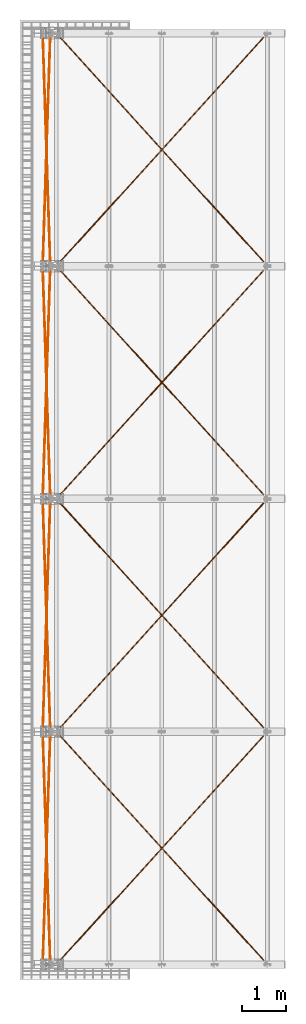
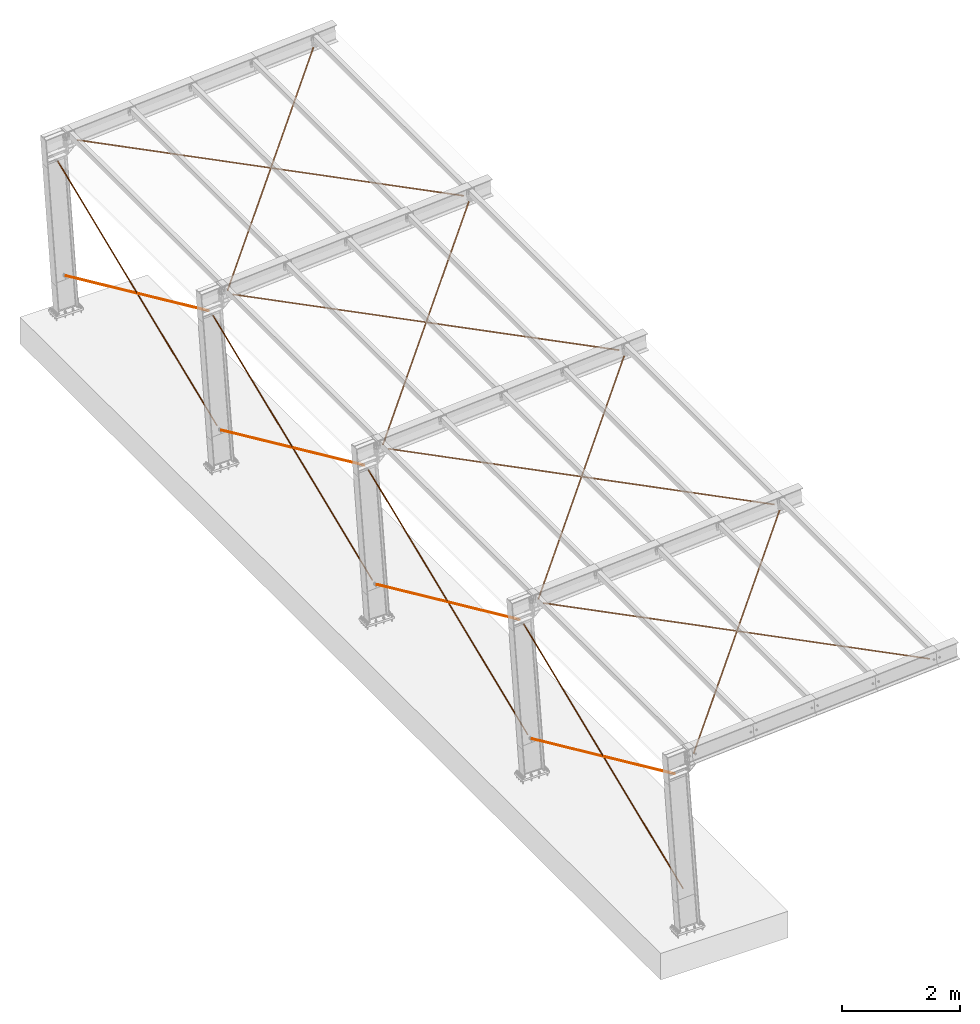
# One storey, part 72 of 72: 16 proxies.
"""IFC4 building model written with IfcOpenShell, lengths in metres."""

from ifc_helpers import new_model, si_unit, frame, frame_2d, origin_with_axes, place, context, project, spatial, circle, i_section, extrude, clip, halfspace, material, material_profile, profile_set, profile_usage, type_object, element, save


model = new_model("IFC4")

# Units and contexts
model_context = context("Model", 3, precision=1e-05, world=origin_with_axes())
ifc_project = project(units=[si_unit("LENGTHUNIT", "METRE"), si_unit("AREAUNIT", "SQUARE_METRE"), si_unit("VOLUMEUNIT", "CUBIC_METRE"), si_unit("MASSUNIT", "GRAM", prefix="KILO"), si_unit("TIMEUNIT", "SECOND"), si_unit("PLANEANGLEUNIT", "RADIAN"), si_unit("SOLIDANGLEUNIT", "STERADIAN"), si_unit("THERMODYNAMICTEMPERATUREUNIT", "DEGREE_CELSIUS")], contexts=[model_context])

# Site, building, storey
placement_1 = place(None, origin_with_axes())
site = spatial("IfcSite", under=ifc_project, at=placement_1, Name="Italia", CompositionType="ELEMENT")
building = spatial("IfcBuilding", under=site, at=placement_1, Name="Pensilina", CompositionType="ELEMENT")
storey = spatial("IfcBuildingStorey", under=building, at=placement_1, Name="Storey 0", CompositionType="ELEMENT", Elevation=0.0)

# Proxies
ifc_material = material(Name="Acciaio", Category="ACCIAIO")
ifc_material_profile = material_profile(ifc_material, i_section(OverallWidth=0.18, OverallDepth=0.4, WebThickness=0.0086, FlangeThickness=0.0135, FilletRadius=0.021, at=frame_2d((0.0, 0.0, 0.0), x_axis=(1.0, 0.0))), Name="1 IPE400")
ifc_profile_set = profile_set([ifc_material_profile])
ifc_profile_usage_1 = profile_usage(ifc_profile_set, cardinal=5)
member_type_1 = type_object("IfcMemberType", Name="11 C16", PredefinedType="MEMBER", material=ifc_profile_usage_1)
placement_2 = place(placement_1, origin_with_axes())
proxy_1_placement = place(placement_2, frame((0.97839766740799, 7.956416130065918, -0.468639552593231), z_axis=(0.0, 0.0, 1.0), x_axis=(1.0, 0.0, 0.0)))
element("IfcBuildingElementProxy", 1, at=proxy_1_placement, inside=storey, type_object=member_type_1, Name="914", context=model_context, shape_type="Clipping", body=[
    clip(clip(extrude(circle(Radius=0.008, at=frame_2d((0.0, 0.0, 0.0), x_axis=(1.0, 0.0))), frame((0.0, 0.0, 0.0), z_axis=(-0.029526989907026, -0.902447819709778, 0.429786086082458), x_axis=(0.99946516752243, -0.032701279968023, 0.0)), (0.0, 0.0, 1.0), 11.7015), halfspace(frame((-0.0901551, -2.75546, 1.31227), z_axis=(0.028586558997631, 0.902767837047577, -0.429177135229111), x_axis=(-0.999499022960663, 0.031649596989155, 0.0)), False)), halfspace(frame((-0.257738, -7.87738, 3.75156), z_axis=(0.029574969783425, 0.90244847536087, -0.429781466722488), x_axis=(-0.999463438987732, 0.032754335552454, 0.0)), True)),
])
ifc_profile_usage_2 = profile_usage(ifc_profile_set, cardinal=5)
member_type_2 = type_object("IfcMemberType", Name="11 C16", PredefinedType="MEMBER", material=ifc_profile_usage_2)
proxy_2_placement = place(placement_2, frame((0.632887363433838, 7.883584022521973, 4.560505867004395), z_axis=(0.0, 0.0, 1.0), x_axis=(1.0, 0.0, 0.0)))
element("IfcBuildingElementProxy", 2, at=proxy_2_placement, inside=storey, type_object=member_type_2, Name="911", context=model_context, shape_type="Clipping", body=[
    clip(clip(extrude(circle(Radius=0.008, at=frame_2d((0.0, 0.0, 0.0), x_axis=(1.0, 0.0))), frame((0.0, 0.0, 0.0), z_axis=(0.029526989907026, -0.902447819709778, -0.429786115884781), x_axis=(0.99946516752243, 0.032701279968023, 0.0)), (0.0, 0.0, 1.0), 11.7015), halfspace(frame((0.0877718, -2.68262, -1.27758), z_axis=(-0.029885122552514, 0.902365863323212, 0.429933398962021), x_axis=(-0.99945205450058, -0.033100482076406, 0.0)), False)), halfspace(frame((0.255356, -7.80456, -3.71688), z_axis=(-0.030468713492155, 0.902114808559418, 0.430418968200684), x_axis=(-0.999430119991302, -0.033755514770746, 0.0)), True)),
])
ifc_profile_usage_3 = profile_usage(ifc_profile_set, cardinal=5)
member_type_3 = type_object("IfcMemberType", Name="11 C16", PredefinedType="MEMBER", material=ifc_profile_usage_3)
proxy_3_placement = place(placement_2, frame((0.97839766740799, 13.236416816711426, -0.468639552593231), z_axis=(0.0, 0.0, 1.0), x_axis=(1.0, 0.0, 0.0)))
element("IfcBuildingElementProxy", 3, at=proxy_3_placement, inside=storey, type_object=member_type_3, Name="916", context=model_context, shape_type="Clipping", body=[
    clip(clip(extrude(circle(Radius=0.008, at=frame_2d((0.0, 0.0, 0.0), x_axis=(1.0, 0.0))), frame((0.0, 0.0, 0.0), z_axis=(-0.029526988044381, -0.902447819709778, 0.429786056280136), x_axis=(0.99946516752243, -0.032701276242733, 0.0)), (0.0, 0.0, 1.0), 11.7015), halfspace(frame((-0.0901546, -2.75544, 1.31226), z_axis=(0.030463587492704, 0.902331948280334, -0.429963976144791), x_axis=(-0.999430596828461, 0.033741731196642, 0.0)), False)), halfspace(frame((-0.257739, -7.87739, 3.75157), z_axis=(0.028786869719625, 0.902723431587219, -0.429257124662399), x_axis=(-0.999491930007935, 0.03187271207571, 0.0)), True)),
])
ifc_profile_usage_4 = profile_usage(ifc_profile_set, cardinal=5)
member_type_4 = type_object("IfcMemberType", Name="11 C16", PredefinedType="MEMBER", material=ifc_profile_usage_4)
proxy_4_placement = place(placement_2, frame((0.632887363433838, 13.16358470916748, 4.560505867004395), z_axis=(0.0, 0.0, 1.0), x_axis=(1.0, 0.0, 0.0)))
element("IfcBuildingElementProxy", 4, at=proxy_4_placement, inside=storey, type_object=member_type_4, Name="918", context=model_context, shape_type="Clipping", body=[
    clip(clip(extrude(circle(Radius=0.008, at=frame_2d((0.0, 0.0, 0.0), x_axis=(1.0, 0.0))), frame((0.0, 0.0, 0.0), z_axis=(0.029526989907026, -0.902447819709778, -0.429786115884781), x_axis=(0.99946516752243, 0.032701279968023, 0.0)), (0.0, 0.0, 1.0), 11.7015), halfspace(frame((0.0877718, -2.68262, -1.27758), z_axis=(-0.029737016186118, 0.902486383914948, 0.429690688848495), x_axis=(-0.999457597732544, -0.032932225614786, 0.0)), False)), halfspace(frame((0.255356, -7.80457, -3.71689), z_axis=(-0.030969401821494, 0.902019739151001, 0.430582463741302), x_axis=(-0.999411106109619, -0.034313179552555, 0.0)), True)),
])
ifc_profile_usage_5 = profile_usage(ifc_profile_set, cardinal=5)
member_type_5 = type_object("IfcMemberType", Name="11 C16", PredefinedType="MEMBER", material=ifc_profile_usage_5)
proxy_5_placement = place(placement_2, frame((0.978397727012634, 18.516414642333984, -0.468639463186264), z_axis=(0.0, 0.0, 1.0), x_axis=(1.0, 0.0, 0.0)))
element("IfcBuildingElementProxy", 5, at=proxy_5_placement, inside=storey, type_object=member_type_5, Name="919", context=model_context, shape_type="Clipping", body=[
    clip(clip(extrude(circle(Radius=0.008, at=frame_2d((0.0, 0.0, 0.0), x_axis=(1.0, 0.0))), frame((0.0, 0.0, 0.0), z_axis=(-0.029527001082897, -0.902447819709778, 0.429786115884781), x_axis=(0.99946516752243, -0.032701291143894, 0.0)), (0.0, 0.0, 1.0), 11.7015), halfspace(frame((-0.0901554, -2.75546, 1.31228), z_axis=(0.027173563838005, 0.90337860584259, -0.427982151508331), x_axis=(-0.999547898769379, 0.030066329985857, 0.0)), False)), halfspace(frame((-0.257738, -7.87738, 3.75156), z_axis=(0.02968331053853, 0.902460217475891, -0.429749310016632), x_axis=(-0.999459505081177, 0.032873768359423, 0.0)), True)),
])
ifc_profile_usage_6 = profile_usage(ifc_profile_set, cardinal=5)
member_type_6 = type_object("IfcMemberType", Name="11 C16", PredefinedType="MEMBER", material=ifc_profile_usage_6)
proxy_6_placement = place(placement_2, frame((0.632887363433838, 18.443584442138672, 4.560505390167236), z_axis=(0.0, 0.0, 1.0), x_axis=(1.0, 0.0, 0.0)))
element("IfcBuildingElementProxy", 6, at=proxy_6_placement, inside=storey, type_object=member_type_6, Name="921", context=model_context, shape_type="Clipping", body=[
    clip(clip(extrude(circle(Radius=0.008, at=frame_2d((0.0, 0.0, 0.0), x_axis=(1.0, 0.0))), frame((0.0, 0.0, 0.0), z_axis=(0.029526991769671, -0.902447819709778, -0.429786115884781), x_axis=(0.99946516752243, 0.032701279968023, 0.0)), (0.0, 0.0, 1.0), 11.7015), halfspace(frame((0.0877723, -2.68262, -1.27759), z_axis=(-0.030482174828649, 0.902110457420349, 0.43042716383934), x_axis=(-0.9994295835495, -0.033770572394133, 0.0)), False)), halfspace(frame((0.255356, -7.80456, -3.71688), z_axis=(-0.030704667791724, 0.902251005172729, 0.430116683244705), x_axis=(-0.999421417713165, -0.034011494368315, 0.0)), True)),
])
ifc_profile_usage_7 = profile_usage(ifc_profile_set, cardinal=5)
member_type_7 = type_object("IfcMemberType", Name="11 C16", PredefinedType="MEMBER", material=ifc_profile_usage_7)
proxy_7_placement = place(placement_2, frame((0.97839766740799, 23.796417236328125, -0.468639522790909), z_axis=(0.0, 0.0, 1.0), x_axis=(1.0, 0.0, 0.0)))
element("IfcBuildingElementProxy", 7, at=proxy_7_placement, inside=storey, type_object=member_type_7, Name="926", context=model_context, shape_type="Clipping", body=[
    clip(clip(extrude(circle(Radius=0.008, at=frame_2d((0.0, 0.0, 0.0), x_axis=(1.0, 0.0))), frame((0.0, 0.0, 0.0), z_axis=(-0.029526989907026, -0.902447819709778, 0.429786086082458), x_axis=(0.99946516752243, -0.032701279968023, 0.0)), (0.0, 0.0, 1.0), 11.7015), halfspace(frame((-0.0901543, -2.75544, 1.31226), z_axis=(0.030272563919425, 0.902183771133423, -0.430288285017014), x_axis=(-0.999437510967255, 0.0335358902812, 0.0)), False)), halfspace(frame((-0.257738, -7.87738, 3.75156), z_axis=(0.029363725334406, 0.902433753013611, -0.429826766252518), x_axis=(-0.999471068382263, 0.032521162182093, 0.0)), True)),
])
ifc_profile_usage_8 = profile_usage(ifc_profile_set, cardinal=5)
member_type_8 = type_object("IfcMemberType", Name="11 C16", PredefinedType="MEMBER", material=ifc_profile_usage_8)
proxy_8_placement = place(placement_2, frame((0.632887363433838, 23.723583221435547, 4.560505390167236), z_axis=(0.0, 0.0, 1.0), x_axis=(1.0, 0.0, 0.0)))
element("IfcBuildingElementProxy", 8, at=proxy_8_placement, inside=storey, type_object=member_type_8, Name="925", context=model_context, shape_type="Clipping", body=[
    clip(clip(extrude(circle(Radius=0.008, at=frame_2d((0.0, 0.0, 0.0), x_axis=(1.0, 0.0))), frame((0.0, 0.0, 0.0), z_axis=(0.029526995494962, -0.902447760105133, -0.429786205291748), x_axis=(0.99946516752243, 0.032701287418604, 0.0)), (0.0, 0.0, 1.0), 11.7015), halfspace(frame((0.0877718, -2.68262, -1.27758), z_axis=(-0.029548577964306, 0.902447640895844, 0.429785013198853), x_axis=(-0.999464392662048, -0.032725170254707, 0.0)), False)), halfspace(frame((0.255356, -7.80457, -3.71689), z_axis=(-0.03212733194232, 0.901496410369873, 0.431592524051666), x_axis=(-0.999365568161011, -0.035615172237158, 0.0)), True)),
])
ifc_profile_usage_9 = profile_usage(ifc_profile_set, cardinal=5)
member_type_9 = type_object("IfcMemberType", Name="12 C20", PredefinedType="MEMBER", material=ifc_profile_usage_9)
proxy_9_placement = place(placement_2, frame((-1.367852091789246, -2.636926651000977, 3.402264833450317), z_axis=(0.0, 0.0, 1.0), x_axis=(1.0, 0.0, 0.0)))
element("IfcBuildingElementProxy", 9, at=proxy_9_placement, inside=storey, type_object=member_type_9, Name="612", context=model_context, shape_type="Clipping", body=[
    clip(clip(extrude(circle(Radius=0.01, at=frame_2d((0.0, 0.0, 0.0), x_axis=(0.0, 0.999999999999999))), frame((0.0, 0.0, 0.0), z_axis=(0.671094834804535, 0.739936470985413, 0.046105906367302), x_axis=(-0.740724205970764, 0.671809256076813, 0.0)), (0.0, 0.0, 1.0), 14.2715), halfspace(frame((2.47178, 2.72534, 0.169817), z_axis=(-0.67115592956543, -0.739884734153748, -0.046047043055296), x_axis=(0.740670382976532, -0.671868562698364, 0.0)), False)), halfspace(frame((7.10017, 7.82852, 0.4878), z_axis=(-0.671028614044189, -0.73998761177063, -0.046249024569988), x_axis=(0.740780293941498, -0.671747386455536, 0.0)), True)),
])
ifc_profile_usage_10 = profile_usage(ifc_profile_set, cardinal=5)
member_type_10 = type_object("IfcMemberType", Name="12 C20", PredefinedType="MEMBER", material=ifc_profile_usage_10)
proxy_10_placement = place(placement_2, frame((-1.368472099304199, 7.917609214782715, 3.42224383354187), z_axis=(0.0, 0.0, 1.0), x_axis=(1.0, 0.0, 0.0)))
element("IfcBuildingElementProxy", 10, at=proxy_10_placement, inside=storey, type_object=member_type_10, Name="613", context=model_context, shape_type="Clipping", body=[
    clip(clip(extrude(circle(Radius=0.01, at=frame_2d((0.0, 0.0, 0.0), x_axis=(0.0, 0.999999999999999))), frame((0.0, 0.0, 0.0), z_axis=(0.67109489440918, -0.739936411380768, 0.04610588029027), x_axis=(0.740724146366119, 0.671809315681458, 0.0)), (0.0, 0.0, 1.0), 14.2715), halfspace(frame((2.4724, -2.72602, 0.16986), z_axis=(-0.671154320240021, 0.739881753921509, -0.046118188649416), x_axis=(-0.740669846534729, -0.671869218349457, 0.0)), False)), halfspace(frame((7.1008, -7.82921, 0.487842), z_axis=(-0.671588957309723, 0.739444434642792, -0.046800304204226), x_axis=(-0.740255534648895, -0.672325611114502, 0.0)), True)),
])
ifc_profile_usage_11 = profile_usage(ifc_profile_set, cardinal=5)
member_type_11 = type_object("IfcMemberType", Name="12 C20", PredefinedType="MEMBER", material=ifc_profile_usage_11)
proxy_11_placement = place(placement_2, frame((-1.367852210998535, 2.64307427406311, 3.402264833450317), z_axis=(0.0, 0.0, 1.0), x_axis=(1.0, 0.0, 0.0)))
element("IfcBuildingElementProxy", 11, at=proxy_11_placement, inside=storey, type_object=member_type_11, Name="617", context=model_context, shape_type="Clipping", body=[
    clip(clip(extrude(circle(Radius=0.01, at=frame_2d((0.0, 0.0, 0.0), x_axis=(0.0, 0.999999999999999))), frame((0.0, 0.0, 0.0), z_axis=(0.67109489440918, 0.739936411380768, 0.046105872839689), x_axis=(-0.740724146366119, 0.671809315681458, 0.0)), (0.0, 0.0, 1.0), 14.2715), halfspace(frame((2.47178, 2.72534, 0.169817), z_axis=(-0.671127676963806, -0.739909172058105, -0.046065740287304), x_axis=(0.740695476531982, -0.671840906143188, 0.0)), False)), halfspace(frame((7.10018, 7.82852, 0.4878), z_axis=(-0.670592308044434, -0.740344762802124, -0.046856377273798), x_axis=(0.741158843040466, -0.67132967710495, 0.0)), True)),
])
ifc_profile_usage_12 = profile_usage(ifc_profile_set, cardinal=5)
member_type_12 = type_object("IfcMemberType", Name="12 C20", PredefinedType="MEMBER", material=ifc_profile_usage_12)
proxy_12_placement = place(placement_2, frame((-1.368470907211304, 13.197610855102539, 3.42224383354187), z_axis=(0.0, 0.0, 1.0), x_axis=(1.0, 0.0, 0.0)))
element("IfcBuildingElementProxy", 12, at=proxy_12_placement, inside=storey, type_object=member_type_12, Name="615", context=model_context, shape_type="Clipping", body=[
    clip(clip(extrude(circle(Radius=0.01, at=frame_2d((0.0, 0.0, 0.0), x_axis=(0.0, 0.999999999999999))), frame((0.0, 0.0, 0.0), z_axis=(0.67109477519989, -0.739936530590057, 0.046105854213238), x_axis=(0.740724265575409, 0.671809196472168, 0.0)), (0.0, 0.0, 1.0), 14.2715), halfspace(frame((2.4724, -2.72602, 0.169859), z_axis=(-0.671180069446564, 0.739850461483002, -0.046245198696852), x_axis=(-0.740642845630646, -0.671898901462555, 0.0)), False)), halfspace(frame((7.10079, -7.82919, 0.487841), z_axis=(-0.670830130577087, 0.74022364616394, -0.045342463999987), x_axis=(-0.740985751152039, -0.6715207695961, 0.0)), True)),
])
ifc_profile_usage_13 = profile_usage(ifc_profile_set, cardinal=5)
member_type_13 = type_object("IfcMemberType", Name="12 C20", PredefinedType="MEMBER", material=ifc_profile_usage_13)
proxy_13_placement = place(placement_2, frame((-1.367851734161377, 7.923073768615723, 3.402264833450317), z_axis=(0.0, 0.0, 1.0), x_axis=(1.0, 0.0, 0.0)))
element("IfcBuildingElementProxy", 13, at=proxy_13_placement, inside=storey, type_object=member_type_13, Name="620", context=model_context, shape_type="Clipping", body=[
    clip(clip(extrude(circle(Radius=0.01, at=frame_2d((0.0, 0.0, 0.0), x_axis=(0.0, 0.999999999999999))), frame((0.0, 0.0, 0.0), z_axis=(0.671094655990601, 0.739936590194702, 0.046105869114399), x_axis=(-0.740724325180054, 0.671809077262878, 0.0)), (0.0, 0.0, 1.0), 14.2715), halfspace(frame((2.47179, 2.72534, 0.169818), z_axis=(-0.670612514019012, -0.740296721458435, -0.047324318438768), x_axis=(0.741127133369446, -0.671364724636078, 0.0)), False)), halfspace(frame((7.10017, 7.82851, 0.487799), z_axis=(-0.671332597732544, -0.739754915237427, -0.045554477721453), x_axis=(0.74052369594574, -0.67203027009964, 0.0)), True)),
])
ifc_profile_usage_14 = profile_usage(ifc_profile_set, cardinal=5)
member_type_14 = type_object("IfcMemberType", Name="12 C20", PredefinedType="MEMBER", material=ifc_profile_usage_14)
proxy_14_placement = place(placement_2, frame((-1.368471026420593, 18.477609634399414, 3.42224383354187), z_axis=(0.0, 0.0, 1.0), x_axis=(1.0, 0.0, 0.0)))
element("IfcBuildingElementProxy", 14, at=proxy_14_placement, inside=storey, type_object=member_type_14, Name="622", context=model_context, shape_type="Clipping", body=[
    clip(clip(extrude(circle(Radius=0.01, at=frame_2d((0.0, 0.0, 0.0), x_axis=(0.0, 0.999999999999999))), frame((0.0, 0.0, 0.0), z_axis=(0.67109477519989, -0.739936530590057, 0.046105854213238), x_axis=(0.740724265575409, 0.671809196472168, 0.0)), (0.0, 0.0, 1.0), 14.2715), halfspace(frame((2.47239, -2.72602, 0.169859), z_axis=(-0.670749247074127, 0.740279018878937, -0.045632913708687), x_axis=(-0.741051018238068, -0.671448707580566, 0.0)), False)), halfspace(frame((7.10077, -7.82919, 0.487841), z_axis=(-0.669991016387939, 0.741050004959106, -0.044236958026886), x_axis=(-0.741776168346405, -0.67064756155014, 0.0)), True)),
])
ifc_profile_usage_15 = profile_usage(ifc_profile_set, cardinal=5)
member_type_15 = type_object("IfcMemberType", Name="12 C20", PredefinedType="MEMBER", material=ifc_profile_usage_15)
proxy_15_placement = place(placement_2, frame((-1.367851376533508, 13.203073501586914, 3.402264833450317), z_axis=(0.0, 0.0, 1.0), x_axis=(1.0, 0.0, 0.0)))
element("IfcBuildingElementProxy", 15, at=proxy_15_placement, inside=storey, type_object=member_type_15, Name="624", context=model_context, shape_type="Clipping", body=[
    clip(clip(extrude(circle(Radius=0.01, at=frame_2d((0.0, 0.0, 0.0), x_axis=(0.0, 0.999999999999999))), frame((0.0, 0.0, 0.0), z_axis=(0.67109477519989, 0.739936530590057, 0.046105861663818), x_axis=(-0.740724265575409, 0.671809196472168, 0.0)), (0.0, 0.0, 1.0), 14.2715), halfspace(frame((2.47179, 2.72535, 0.169818), z_axis=(-0.670672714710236, -0.740251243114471, -0.047183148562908), x_axis=(0.741076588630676, -0.671420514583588, 0.0)), False)), halfspace(frame((7.10018, 7.82853, 0.4878), z_axis=(-0.669999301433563, -0.740788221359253, -0.048309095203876), x_axis=(0.74165415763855, -0.670782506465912, 0.0)), True)),
])
ifc_profile_usage_16 = profile_usage(ifc_profile_set, cardinal=5)
member_type_16 = type_object("IfcMemberType", Name="12 C20", PredefinedType="MEMBER", material=ifc_profile_usage_16)
proxy_16_placement = place(placement_2, frame((-1.368470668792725, 23.75760841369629, 3.42224383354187), z_axis=(0.0, 0.0, 1.0), x_axis=(1.0, 0.0, 0.0)))
element("IfcBuildingElementProxy", 16, at=proxy_16_placement, inside=storey, type_object=member_type_16, Name="623", context=model_context, shape_type="Clipping", body=[
    clip(clip(extrude(circle(Radius=0.01, at=frame_2d((0.0, 0.0, 0.0), x_axis=(0.0, 0.999999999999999))), frame((0.0, 0.0, 0.0), z_axis=(0.671094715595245, -0.739936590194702, 0.046105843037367), x_axis=(0.740724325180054, 0.671809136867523, 0.0)), (0.0, 0.0, 1.0), 14.2715), halfspace(frame((2.4724, -2.72602, 0.16986), z_axis=(-0.671162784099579, 0.739875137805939, -0.046100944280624), x_axis=(-0.740662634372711, -0.671877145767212, 0.0)), False)), halfspace(frame((7.10078, -7.82919, 0.487841), z_axis=(-0.670666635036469, 0.740351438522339, -0.045673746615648), x_axis=(-0.741124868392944, -0.671367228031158, 0.0)), True)),
])

save(model, "model.ifc")
